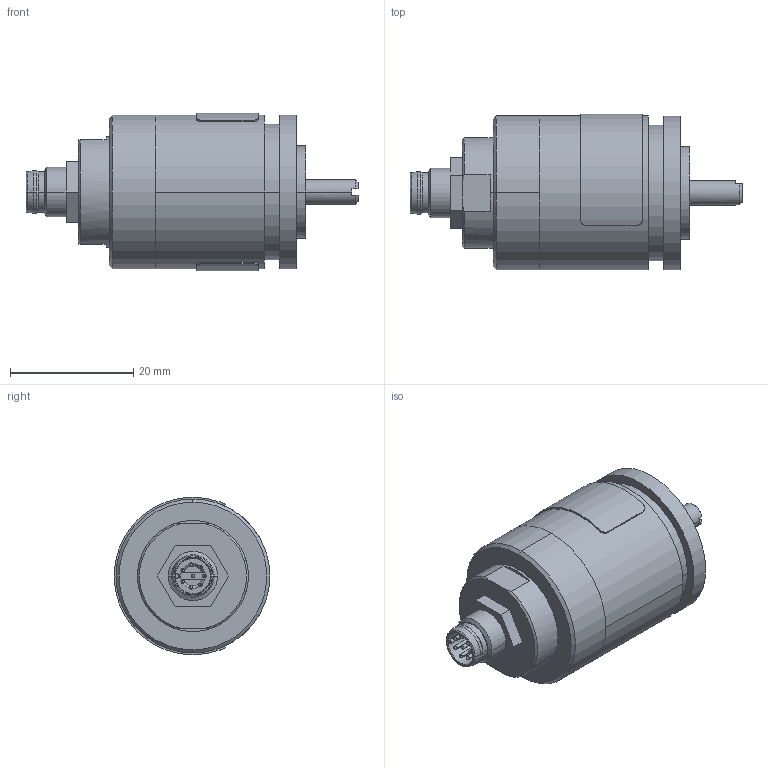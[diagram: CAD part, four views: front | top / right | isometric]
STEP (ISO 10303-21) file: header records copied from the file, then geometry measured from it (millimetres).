
FILE_DESCRIPTION (( 'STEP AP203' ), '1' );
FILE_NAME ('HTx25 4x10 M8.STEP', '2022-05-31T13:10:42', ( '' ), ( '' ), 'SwSTEP 2.0', 'SolidWorks 2019', '' );
FILE_SCHEMA (( 'CONFIG_CONTROL_DESIGN' ));
Length unit declared in the file: millimetre
Products named in the file (1): HTx25 4x10 M8
Bounding box: 53.9 x 25.3 x 25.6 mm (x, y, z)
Surface area: 5714.2 mm2 (no closed solid volume)
Topology: 0 solids, 19 shells, 177 faces, 454 edges, 289 vertices
Faces by surface type: cylinder 75, plane 47, cone 32, bspline 23
Entity records: 5875 total; most frequent: CARTESIAN_POINT 1577, DIRECTION 958, ORIENTED_EDGE 783, EDGE_CURVE 438, AXIS2_PLACEMENT_3D 394, VERTEX_POINT 289, CIRCLE 239, EDGE_LOOP 201
